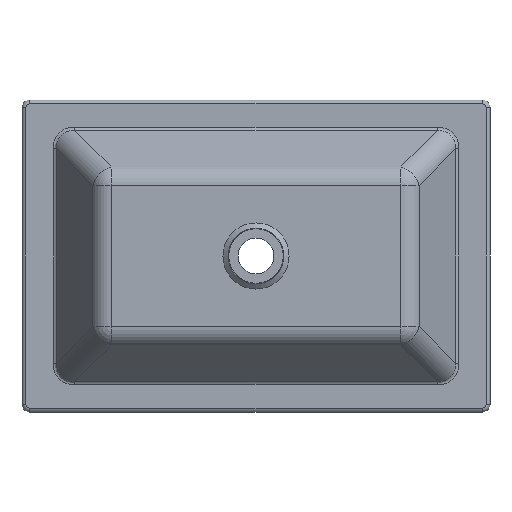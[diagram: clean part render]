
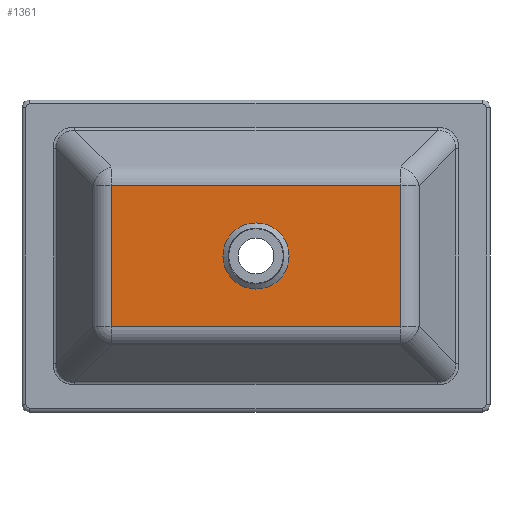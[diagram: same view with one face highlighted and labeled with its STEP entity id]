
A CAD part, front view. The second image highlights one B-rep face of the part: STEP entity #1361.
In plain terms, the highlighted planar face has unit normal (0, -1, 0).
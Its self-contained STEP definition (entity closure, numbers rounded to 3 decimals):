
#83 = CARTESIAN_POINT ( 'NONE',  ( 185.718, -117., -90.718 ) ) ;
#239 = CIRCLE ( 'NONE', #2536, 42.368 ) ;
#438 = EDGE_CURVE ( 'NONE', #766, #1879, #2375, .T. ) ;
#443 = CARTESIAN_POINT ( 'NONE',  ( 0., -117., -90.718 ) ) ;
#459 = DIRECTION ( 'NONE',  ( -1., 0., 0. ) ) ;
#496 = DIRECTION ( 'NONE',  ( 0., 0., -1. ) ) ;
#511 = CARTESIAN_POINT ( 'NONE',  ( 185.718, -117., 0. ) ) ;
#619 = DIRECTION ( 'NONE',  ( 0., 0., 1. ) ) ;
#663 = EDGE_LOOP ( 'NONE', ( #1106, #1099, #1050, #1026 ) ) ;
#766 = VERTEX_POINT ( 'NONE', #1188 ) ;
#825 = VERTEX_POINT ( 'NONE', #838 ) ;
#838 = CARTESIAN_POINT ( 'NONE',  ( -185.718, -117., -90.718 ) ) ;
#853 = VERTEX_POINT ( 'NONE', #2105 ) ;
#910 = VECTOR ( 'NONE', #619, 1000. ) ;
#954 = LINE ( 'NONE', #2089, #910 ) ;
#1019 = ORIENTED_EDGE ( 'NONE', *, *, #1459, .F. ) ;
#1022 = EDGE_LOOP ( 'NONE', ( #1019 ) ) ;
#1026 = ORIENTED_EDGE ( 'NONE', *, *, #438, .F. ) ;
#1050 = ORIENTED_EDGE ( 'NONE', *, *, #1905, .F. ) ;
#1099 = ORIENTED_EDGE ( 'NONE', *, *, #2543, .F. ) ;
#1105 = AXIS2_PLACEMENT_3D ( 'NONE', #1831, #1196, #2541 ) ;
#1106 = ORIENTED_EDGE ( 'NONE', *, *, #1612, .F. ) ;
#1188 = CARTESIAN_POINT ( 'NONE',  ( 185.718, -117., 90.718 ) ) ;
#1196 = DIRECTION ( 'NONE',  ( 0., 1., 0. ) ) ;
#1241 = VECTOR ( 'NONE', #496, 1000. ) ;
#1315 = FACE_BOUND ( 'NONE', #1022, .T. ) ;
#1361 = ADVANCED_FACE ( 'NONE', ( #2471, #1315 ), #1814, .F. ) ;
#1371 = CARTESIAN_POINT ( 'NONE',  ( -185.718, -117., 90.718 ) ) ;
#1406 = VERTEX_POINT ( 'NONE', #1371 ) ;
#1459 = EDGE_CURVE ( 'NONE', #853, #853, #239, .T. ) ;
#1477 = VECTOR ( 'NONE', #459, 1000. ) ;
#1612 = EDGE_CURVE ( 'NONE', #1406, #766, #2208, .T. ) ;
#1637 = CARTESIAN_POINT ( 'NONE',  ( 0., -117., 0. ) ) ;
#1814 = PLANE ( 'NONE',  #1105 ) ;
#1831 = CARTESIAN_POINT ( 'NONE',  ( 0., -117., 0. ) ) ;
#1879 = VERTEX_POINT ( 'NONE', #83 ) ;
#1905 = EDGE_CURVE ( 'NONE', #1879, #825, #1974, .T. ) ;
#1929 = CARTESIAN_POINT ( 'NONE',  ( 0., -117., 90.718 ) ) ;
#1974 = LINE ( 'NONE', #443, #1477 ) ;
#2089 = CARTESIAN_POINT ( 'NONE',  ( -185.718, -117., 0. ) ) ;
#2101 = DIRECTION ( 'NONE',  ( 1., 0., 0. ) ) ;
#2105 = CARTESIAN_POINT ( 'NONE',  ( 0., -117., 42.368 ) ) ;
#2190 = VECTOR ( 'NONE', #2101, 1000. ) ;
#2208 = LINE ( 'NONE', #1929, #2190 ) ;
#2212 = DIRECTION ( 'NONE',  ( 0., 0., 1. ) ) ;
#2227 = DIRECTION ( 'NONE',  ( 0., -1., 0. ) ) ;
#2375 = LINE ( 'NONE', #511, #1241 ) ;
#2471 = FACE_OUTER_BOUND ( 'NONE', #663, .T. ) ;
#2536 = AXIS2_PLACEMENT_3D ( 'NONE', #1637, #2227, #2212 ) ;
#2541 = DIRECTION ( 'NONE',  ( 0., 0., 1. ) ) ;
#2543 = EDGE_CURVE ( 'NONE', #825, #1406, #954, .T. ) ;
